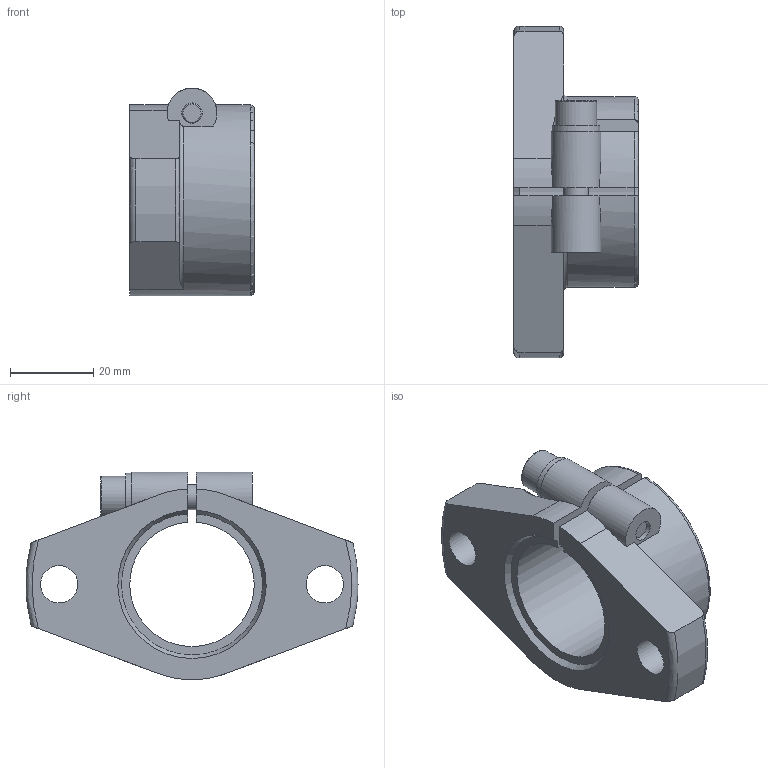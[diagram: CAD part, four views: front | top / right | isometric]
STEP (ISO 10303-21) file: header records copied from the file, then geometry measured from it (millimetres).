
FILE_DESCRIPTION((''),'2;1');
FILE_NAME('D:\製品 (図面)\カタログ用3D\シャフトブロック関連\STEP形式\SF\SF30.stp','2010-06-01T16:26:00',('Tsuchiya'),(''),'Autodesk Inventor 10','Autodesk Inventor 10','');
FILE_SCHEMA(('AUTOMOTIVE_DESIGN { 1 0 10303 214 1 1 1 1 }'));
Length unit declared in the file: millimetre
Products named in the file (1): SF30
Bounding box: 30 x 79.96 x 49.99 mm (x, y, z)
Volume: 40260.6 mm3; surface area: 13624.6 mm2
Topology: 1 solids, 1 shells, 55 faces, 149 edges, 100 vertices
Faces by surface type: plane 25, cylinder 15, torus 7, cone 4, bspline 4
Full cylindrical faces by diameter (mm): 6 x1, 9 x2, 10 x1, 11.5 x1
Entity records: 2045 total; most frequent: CARTESIAN_POINT 746, ORIENTED_EDGE 264, DIRECTION 253, EDGE_CURVE 132, AXIS2_PLACEMENT_3D 101, VERTEX_POINT 93, EDGE_LOOP 75, FACE_OUTER_BOUND 55
